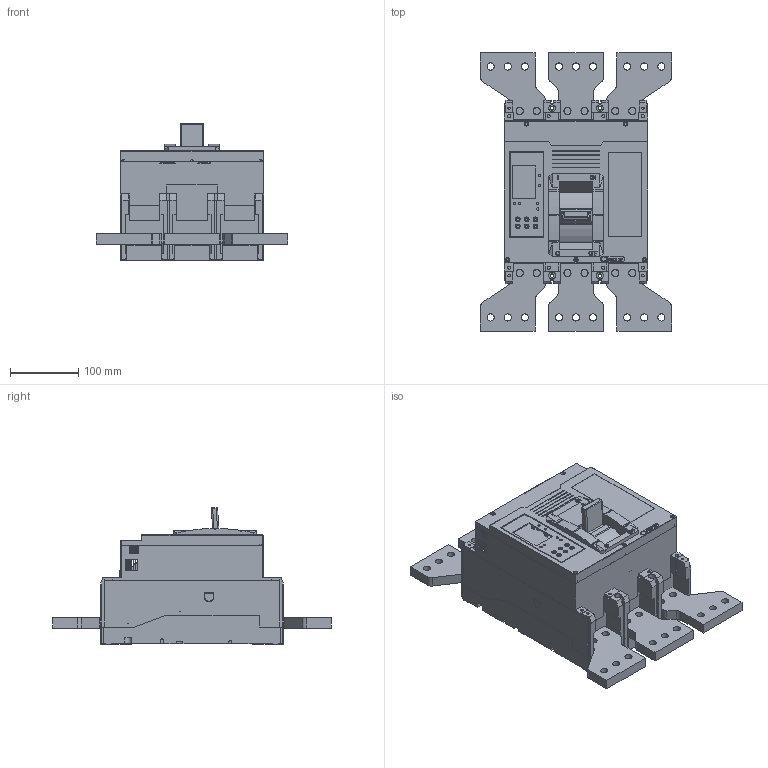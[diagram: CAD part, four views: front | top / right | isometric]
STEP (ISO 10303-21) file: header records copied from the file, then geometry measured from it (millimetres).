
FILE_DESCRIPTION (( 'STEP AP214' ), '1' );
FILE_NAME ('PRO.KVANT_S1-1600S,H–3P+KVA000167 2.STEP', '2024-10-09T04:08:24', ( '' ), ( '' ), 'SwSTEP 2.0', 'SolidWorks 2018', '' );
FILE_SCHEMA (( 'AUTOMOTIVE_DESIGN' ));
Length unit declared in the file: millimetre
Products named in the file (1): PRO.KVANT_S1-1600S,H–3P+KVA000167 2
Bounding box: 280 x 407.4 x 200.49 mm (x, y, z)
Volume: 2864684.8 mm3; surface area: 1195803.5 mm2
Topology: 42 solids, 43 shells, 6126 faces, 17510 edges, 11604 vertices
Faces by surface type: plane 5045, cylinder 932, bspline 69, cone 57, torus 15, sphere 8
Full cylindrical faces by diameter (mm): 2 x1, 2.4 x15, 2.5 x3, 2.6 x2, 3 x3, 3.4 x1, 3.5 x20, 4 x25, 4.2 x10, 4.3 x1, 4.5 x10, 4.8 x6, 5 x29, 5.2 x14, 5.4 x12, 6 x23, 6.2 x6, 6.4 x12, 6.5 x5, 7 x4, 7.6 x1, 7.7 x14, 8 x7, 8.2 x14, 9 x2, 10 x22, 10.5 x30, 11 x7, 11.5 x1, 12 x3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
Entity records: 265504 total; most frequent: CARTESIAN_POINT 38038, ORIENTED_EDGE 33938, DIRECTION 30738, EDGE_CURVE 16969, LINE 14502, VECTOR 14502, VERTEX_POINT 11471, AXIS2_PLACEMENT_3D 8118
